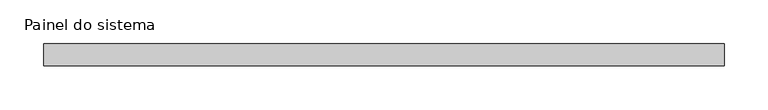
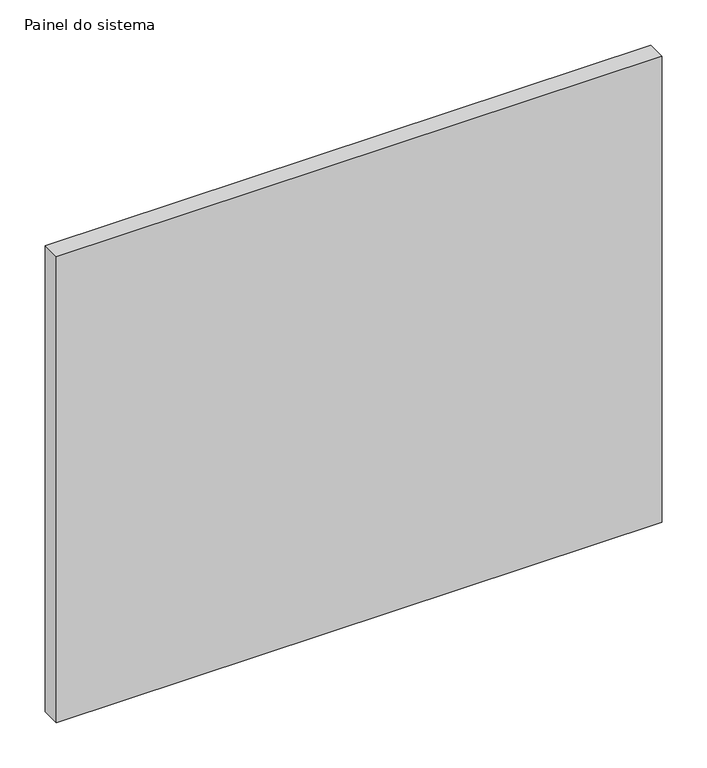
"""IFC4 building model written with IfcOpenShell, lengths in millimetres: plate geometry, Painel do sistema : Envidraçado."""

from ifc_helpers import new_model, si_unit, origin, origin_with_axes, place, context, project, spatial, polyline, outline, extrude, source, transform, mapped, element, save


def painel_do_sistema_a6f56713(model_context):
    return source(origin(), model_context, "Body", "SweptSolid", [
        extrude(outline(polyline([(387.5, -49.5), (-387.5, -49.5), (-387.5, -24.5), (387.5, -24.5), (387.5, -49.5)])), origin_with_axes(), (0.0, 0.0, 1.0), 630.0),
    ])


if __name__ == "__main__":
    model = new_model("IFC4")
    model_context = context("Model", 3, world=origin())
    ifc_project = project(units=[si_unit("LENGTHUNIT", "METRE", prefix="MILLI")], contexts=[model_context])
    site = spatial("IfcSite", under=ifc_project)
    building = spatial("IfcBuilding", under=site)
    placement = place(None, origin())
    painel_do_sistema_shape = painel_do_sistema_a6f56713(model_context)
    element("IfcPlate", 1, ObjectType="Painel do sistema : Envidraçado", at=placement, inside=building, context=model_context, shape_type="MappedRepresentation", body=[
        mapped(painel_do_sistema_shape, transform((0.0, 0.0, 0.0), x_axis=(1.0, 0.0, 0.0), y_axis=(0.0, 1.0, 0.0), z_axis=(0.0, 0.0, 1.0))),
    ])
    save(model, "model.ifc")
